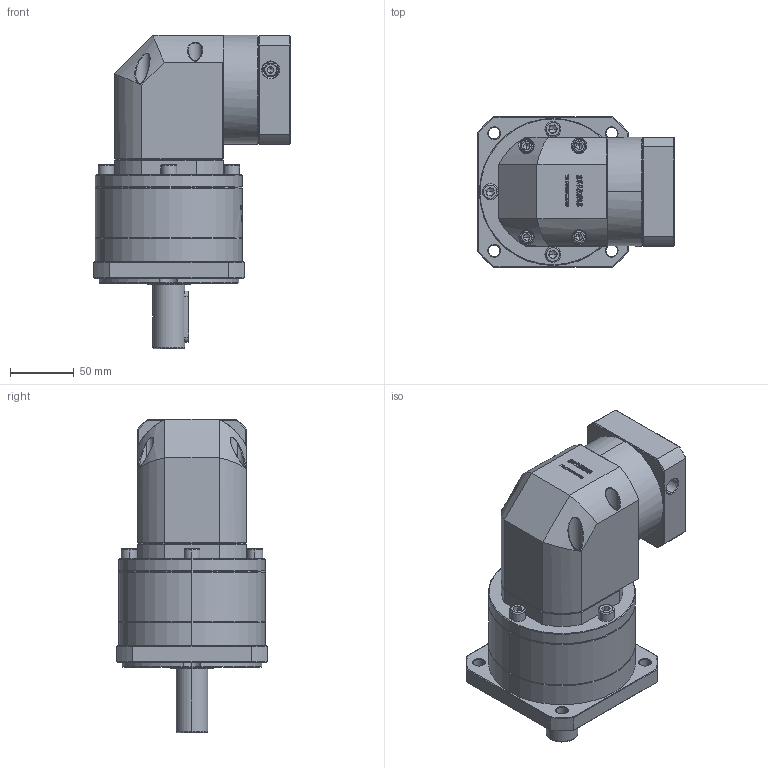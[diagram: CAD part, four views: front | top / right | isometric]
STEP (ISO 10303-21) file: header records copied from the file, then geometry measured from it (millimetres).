
FILE_DESCRIPTION (( 'STEP AP214' ), '1' );
FILE_NAME ('ZFR120A-D25-L2-14-60-75-M6.step', '2023-03-08T05:45:41', ( '' ), ( '' ), 'SwSTEP 2.0', 'SolidWorks 2016', '' );
FILE_SCHEMA (( 'AUTOMOTIVE_DESIGN' ));
Length unit declared in the file: millimetre
Products named in the file (1): ZFR120A-D25-L2-14-60-75-M6
Bounding box: 154.1 x 118 x 245 mm (x, y, z)
Volume: 1859972.1 mm3; surface area: 170030.2 mm2
Topology: 6 solids, 6 shells, 3014 faces, 7983 edges, 5114 vertices
Faces by surface type: plane 1597, bspline 625, cylinder 456, cone 322, torus 14
Entity records: 163843 total; most frequent: CARTESIAN_POINT 62005, ORIENTED_EDGE 15874, DIRECTION 11691, EDGE_CURVE 7937, VERTEX_POINT 5114, LINE 4973, VECTOR 4973, AXIS2_PLACEMENT_3D 3359
